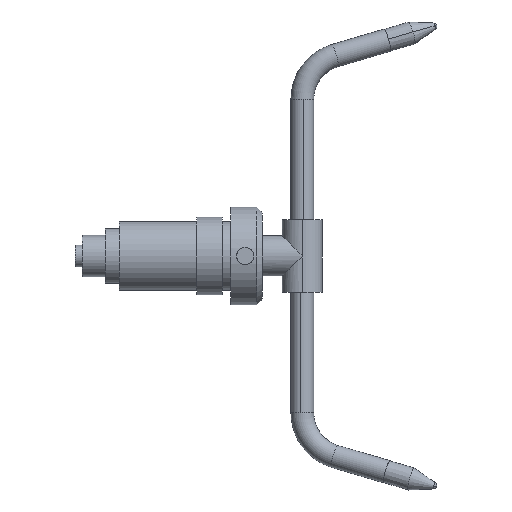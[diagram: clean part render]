
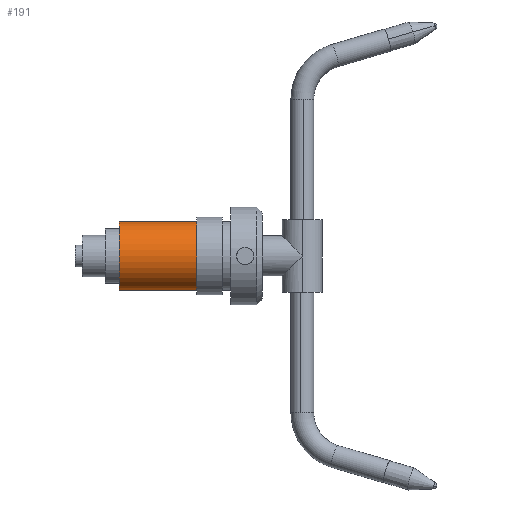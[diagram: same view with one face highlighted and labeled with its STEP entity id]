
A CAD part, left-side view. The second image highlights one B-rep face of the part: STEP entity #191.
In plain terms, the highlighted cylindrical face has radius 12 mm (diameter 24 mm), a partial arc.
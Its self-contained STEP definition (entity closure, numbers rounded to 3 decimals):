
#36 = VERTEX_POINT ( 'NONE', #974 ) ;
#37 = VERTEX_POINT ( 'NONE', #975 ) ;
#41 = VERTEX_POINT ( 'NONE', #979 ) ;
#42 = VERTEX_POINT ( 'NONE', #980 ) ;
#191 = ADVANCED_FACE ( 'NONE', ( #3443 ), #3442, .T. ) ;
#295 = ORIENTED_EDGE ( 'NONE', *, *, #1087, .F. ) ;
#296 = ORIENTED_EDGE ( 'NONE', *, *, #3756, .F. ) ;
#297 = ORIENTED_EDGE ( 'NONE', *, *, #1089, .T. ) ;
#298 = ORIENTED_EDGE ( 'NONE', *, *, #620, .F. ) ;
#620 = EDGE_CURVE ( 'NONE', #36, #37, #3350, .T. ) ;
#974 = CARTESIAN_POINT ( 'NONE',  ( -15.423, 9.952, 13.378 ) ) ;
#975 = CARTESIAN_POINT ( 'NONE',  ( -15.423, 9.952, -10.622 ) ) ;
#979 = CARTESIAN_POINT ( 'NONE',  ( -15.423, 36.952, -10.622 ) ) ;
#980 = CARTESIAN_POINT ( 'NONE',  ( -15.423, 36.952, 13.378 ) ) ;
#1087 = EDGE_CURVE ( 'NONE', #42, #36, #2610, .T. ) ;
#1089 = EDGE_CURVE ( 'NONE', #41, #37, #2614, .T. ) ;
#1344 = CARTESIAN_POINT ( 'NONE',  ( -15.423, 9.952, 1.378 ) ) ;
#1345 = DIRECTION ( 'NONE',  ( 0., -1., 0. ) ) ;
#1346 = DIRECTION ( 'NONE',  ( 0., 0., -1. ) ) ;
#1638 = CARTESIAN_POINT ( 'NONE',  ( -15.423, 36.952, 1.378 ) ) ;
#1639 = DIRECTION ( 'NONE',  ( 0., 1., 0. ) ) ;
#1640 = DIRECTION ( 'NONE',  ( 0., 0., 1. ) ) ;
#2001 = VECTOR ( 'NONE', #2615, 1000. ) ;
#2013 = VECTOR ( 'NONE', #2621, 1000. ) ;
#2333 = AXIS2_PLACEMENT_3D ( 'NONE', #3427, #3453, #3454 ) ;
#2604 = CARTESIAN_POINT ( 'NONE',  ( -15.423, 36.952, 13.378 ) ) ;
#2609 = CARTESIAN_POINT ( 'NONE',  ( -15.423, 36.952, -10.622 ) ) ;
#2610 = LINE ( 'NONE', #2604, #2001 ) ;
#2614 = LINE ( 'NONE', #2609, #2013 ) ;
#2615 = DIRECTION ( 'NONE',  ( 0., -1., 0. ) ) ;
#2621 = DIRECTION ( 'NONE',  ( 0., -1., 0. ) ) ;
#2946 = EDGE_LOOP ( 'NONE', ( #295, #296, #297, #298 ) ) ;
#3350 = CIRCLE ( 'NONE', #3357, 12. ) ;
#3357 = AXIS2_PLACEMENT_3D ( 'NONE', #1344, #1345, #1346 ) ;
#3427 = CARTESIAN_POINT ( 'NONE',  ( -15.423, 36.952, 1.378 ) ) ;
#3442 = CYLINDRICAL_SURFACE ( 'NONE', #2333, 12. ) ;
#3443 = FACE_OUTER_BOUND ( 'NONE', #2946, .T. ) ;
#3453 = DIRECTION ( 'NONE',  ( 0., -1., 0. ) ) ;
#3454 = DIRECTION ( 'NONE',  ( 0., 0., -1. ) ) ;
#3605 = CIRCLE ( 'NONE', #3607, 12. ) ;
#3607 = AXIS2_PLACEMENT_3D ( 'NONE', #1638, #1639, #1640 ) ;
#3756 = EDGE_CURVE ( 'NONE', #41, #42, #3605, .T. ) ;
